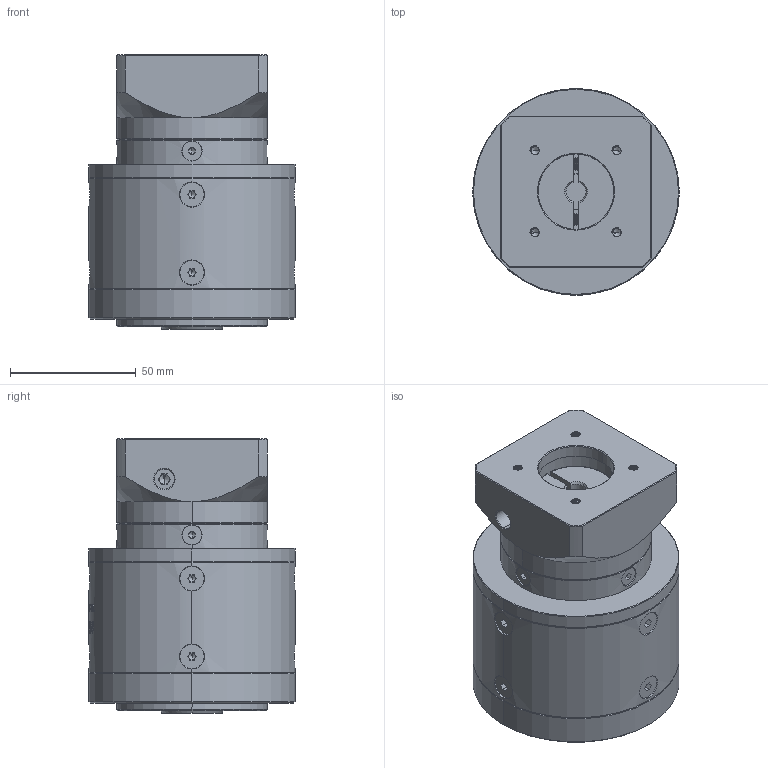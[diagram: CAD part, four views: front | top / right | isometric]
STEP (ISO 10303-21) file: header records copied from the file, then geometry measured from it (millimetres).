
FILE_DESCRIPTION (( 'STEP AP214' ), '1' );
FILE_NAME ('ZE80-K15-L2-8-30-46-M4.step', '2022-05-08T06:07:23', ( '' ), ( 'Microsoft' ), 'SwSTEP 2.0', 'SolidWorks 2016', '' );
FILE_SCHEMA (( 'AUTOMOTIVE_DESIGN' ));
Length unit declared in the file: millimetre
Products named in the file (1): ZE80-K15-L2-8-30-46-M4
Bounding box: 82 x 82 x 109 mm (x, y, z)
Volume: 433535 mm3; surface area: 63418.1 mm2
Topology: 18 solids, 18 shells, 2038 faces, 5364 edges, 3416 vertices
Faces by surface type: plane 936, cylinder 458, bspline 330, cone 300, torus 14
Entity records: 109856 total; most frequent: CARTESIAN_POINT 41033, ORIENTED_EDGE 10640, DIRECTION 8317, EDGE_CURVE 5320, VERTEX_POINT 3416, VECTOR 2857, LINE 2857, AXIS2_PLACEMENT_3D 2730
